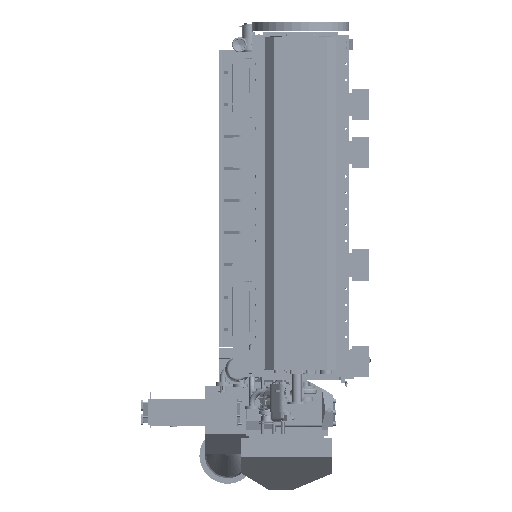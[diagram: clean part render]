
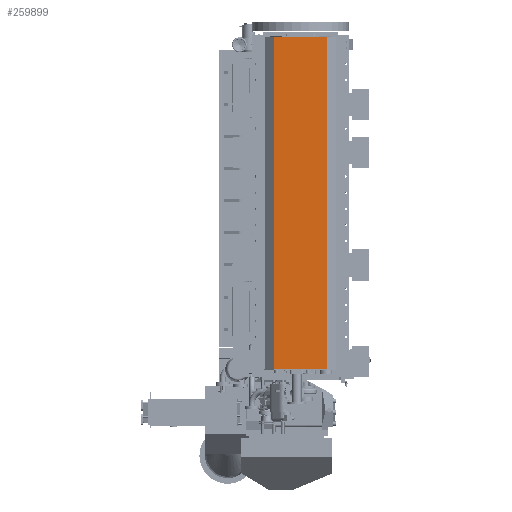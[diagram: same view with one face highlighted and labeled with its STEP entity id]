
A CAD part, front view. The second image highlights one B-rep face of the part: STEP entity #259899.
In plain terms, the highlighted planar face has unit normal (0, -1, 0).
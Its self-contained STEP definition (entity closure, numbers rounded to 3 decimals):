
#258943=DIRECTION('',(1.,0.,0.));
#258944=VECTOR('',#258943,716.);
#258945=CARTESIAN_POINT('',(-357.985,-1176.,-3975.));
#258946=LINE('',#258945,#258944);
#258947=DIRECTION('',(0.,0.,-1.));
#258948=VECTOR('',#258947,4452.);
#258949=CARTESIAN_POINT('',(-357.985,-1176.,477.));
#258950=LINE('',#258949,#258948);
#258951=DIRECTION('',(1.,0.,0.));
#258952=VECTOR('',#258951,716.);
#258953=CARTESIAN_POINT('',(-357.985,-1176.,477.));
#258954=LINE('',#258953,#258952);
#258959=DIRECTION('',(0.,0.,-1.));
#258960=VECTOR('',#258959,4452.);
#258961=CARTESIAN_POINT('',(358.015,-1176.,477.));
#258962=LINE('',#258961,#258960);
#259491=CARTESIAN_POINT('',(-357.985,-1176.,477.));
#259492=VERTEX_POINT('',#259491);
#259493=CARTESIAN_POINT('',(358.015,-1176.,477.));
#259494=VERTEX_POINT('',#259493);
#259543=CARTESIAN_POINT('',(-357.985,-1176.,-3975.));
#259544=VERTEX_POINT('',#259543);
#259545=CARTESIAN_POINT('',(358.015,-1176.,-3975.));
#259546=VERTEX_POINT('',#259545);
#259885=CARTESIAN_POINT('',(-357.985,-1176.,477.));
#259886=DIRECTION('',(0.,-1.,0.));
#259887=DIRECTION('',(1.,0.,0.));
#259888=AXIS2_PLACEMENT_3D('',#259885,#259886,#259887);
#259889=PLANE('',#259888);
#259891=ORIENTED_EDGE('',*,*,#259890,.F.);
#259892=ORIENTED_EDGE('',*,*,#259873,.F.);
#259894=ORIENTED_EDGE('',*,*,#259893,.T.);
#259896=ORIENTED_EDGE('',*,*,#259895,.T.);
#259897=EDGE_LOOP('',(#259891,#259892,#259894,#259896));
#259898=FACE_OUTER_BOUND('',#259897,.F.);
#259899=ADVANCED_FACE('',(#259898),#259889,.T.);
#259873=EDGE_CURVE('',#259492,#259544,#258950,.T.);
#259890=EDGE_CURVE('',#259544,#259546,#258946,.T.);
#259893=EDGE_CURVE('',#259492,#259494,#258954,.T.);
#259895=EDGE_CURVE('',#259494,#259546,#258962,.T.);
